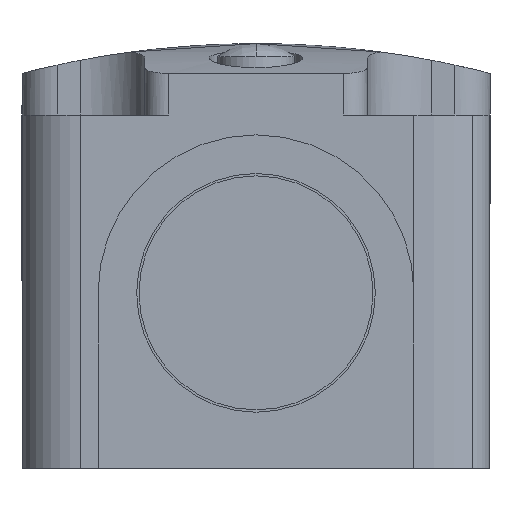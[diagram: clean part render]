
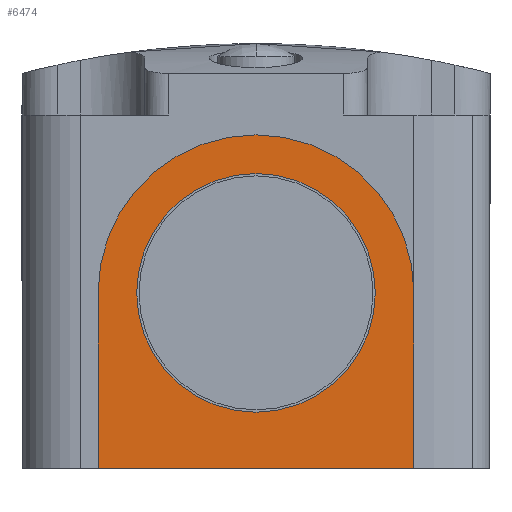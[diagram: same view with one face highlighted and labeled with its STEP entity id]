
A CAD part, front view. The second image highlights one B-rep face of the part: STEP entity #6474.
In plain terms, the highlighted planar face has unit normal (0, -1, 0).
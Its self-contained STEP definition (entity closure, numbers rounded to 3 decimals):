
#30 = VERTEX_POINT ( 'NONE', #11013 ) ;
#336 = VERTEX_POINT ( 'NONE', #6786 ) ;
#664 = VECTOR ( 'NONE', #18358, 1000. ) ;
#763 = DIRECTION ( 'NONE',  ( 0., 1., 0. ) ) ;
#799 = DIRECTION ( 'NONE',  ( 0., -1., 0. ) ) ;
#1005 = AXIS2_PLACEMENT_3D ( 'NONE', #5187, #15158, #6645 ) ;
#1140 = ORIENTED_EDGE ( 'NONE', *, *, #4179, .F. ) ;
#1274 = CIRCLE ( 'NONE', #17469, 13.5 ) ;
#1600 = EDGE_CURVE ( 'NONE', #5424, #5612, #7491, .T. ) ;
#1933 = CARTESIAN_POINT ( 'NONE',  ( -13.5, -36.2, 15. ) ) ;
#2169 = EDGE_CURVE ( 'NONE', #5612, #2374, #16325, .T. ) ;
#2374 = VERTEX_POINT ( 'NONE', #1933 ) ;
#2608 = AXIS2_PLACEMENT_3D ( 'NONE', #13457, #4924, #14928 ) ;
#4042 = EDGE_LOOP ( 'NONE', ( #1140, #9687, #11384, #8587, #11956 ) ) ;
#4179 = EDGE_CURVE ( 'NONE', #10853, #5424, #1274, .T. ) ;
#4603 = CIRCLE ( 'NONE', #16449, 10.2 ) ;
#4861 = PLANE ( 'NONE',  #2608 ) ;
#4924 = DIRECTION ( 'NONE',  ( 0., -1., 0. ) ) ;
#5187 = CARTESIAN_POINT ( 'NONE',  ( 0., -36.2, 0. ) ) ;
#5275 = EDGE_CURVE ( 'NONE', #9746, #30, #4603, .T. ) ;
#5389 = ORIENTED_EDGE ( 'NONE', *, *, #5275, .F. ) ;
#5424 = VERTEX_POINT ( 'NONE', #14175 ) ;
#5502 = LINE ( 'NONE', #6969, #16800 ) ;
#5509 = EDGE_CURVE ( 'NONE', #10853, #336, #10498, .T. ) ;
#5612 = VERTEX_POINT ( 'NONE', #13175 ) ;
#6474 = ADVANCED_FACE ( 'NONE', ( #12889, #9571 ), #4861, .T. ) ;
#6645 = DIRECTION ( 'NONE',  ( 0., 0., -1. ) ) ;
#6786 = CARTESIAN_POINT ( 'NONE',  ( 13.5, -36.2, 15. ) ) ;
#6969 = CARTESIAN_POINT ( 'NONE',  ( -13.5, -36.2, 15. ) ) ;
#6997 = EDGE_CURVE ( 'NONE', #30, #9746, #18305, .T. ) ;
#7217 = CARTESIAN_POINT ( 'NONE',  ( 13.5, -36.2, 0. ) ) ;
#7491 = CIRCLE ( 'NONE', #12832, 13.5 ) ;
#7824 = DIRECTION ( 'NONE',  ( 0., 1., 0. ) ) ;
#8587 = ORIENTED_EDGE ( 'NONE', *, *, #2169, .F. ) ;
#9457 = CARTESIAN_POINT ( 'NONE',  ( 0., -36.2, 0. ) ) ;
#9496 = CARTESIAN_POINT ( 'NONE',  ( 0., -36.2, 0. ) ) ;
#9571 = FACE_OUTER_BOUND ( 'NONE', #4042, .T. ) ;
#9687 = ORIENTED_EDGE ( 'NONE', *, *, #5509, .T. ) ;
#9746 = VERTEX_POINT ( 'NONE', #17379 ) ;
#9962 = DIRECTION ( 'NONE',  ( 0., 0., 1. ) ) ;
#10498 = LINE ( 'NONE', #15661, #13810 ) ;
#10853 = VERTEX_POINT ( 'NONE', #7217 ) ;
#10891 = DIRECTION ( 'NONE',  ( 0., 0., -1. ) ) ;
#10922 = DIRECTION ( 'NONE',  ( 0., 0., -1. ) ) ;
#11013 = CARTESIAN_POINT ( 'NONE',  ( 0., -36.2, 10.2 ) ) ;
#11384 = ORIENTED_EDGE ( 'NONE', *, *, #17213, .F. ) ;
#11956 = ORIENTED_EDGE ( 'NONE', *, *, #1600, .F. ) ;
#12357 = ORIENTED_EDGE ( 'NONE', *, *, #6997, .F. ) ;
#12832 = AXIS2_PLACEMENT_3D ( 'NONE', #9457, #763, #10891 ) ;
#12889 = FACE_BOUND ( 'NONE', #16292, .T. ) ;
#13175 = CARTESIAN_POINT ( 'NONE',  ( -13.5, -36.2, 0. ) ) ;
#13457 = CARTESIAN_POINT ( 'NONE',  ( -13.5, -36.2, -21.3 ) ) ;
#13810 = VECTOR ( 'NONE', #9962, 1000. ) ;
#14175 = CARTESIAN_POINT ( 'NONE',  ( 0., -36.2, -13.5 ) ) ;
#14928 = DIRECTION ( 'NONE',  ( 0., 0., -1. ) ) ;
#15158 = DIRECTION ( 'NONE',  ( 0., -1., 0. ) ) ;
#15573 = CARTESIAN_POINT ( 'NONE',  ( -13.5, -36.2, -21.3 ) ) ;
#15661 = CARTESIAN_POINT ( 'NONE',  ( 13.5, -36.2, -21.3 ) ) ;
#16283 = CARTESIAN_POINT ( 'NONE',  ( 0., -36.2, 0. ) ) ;
#16292 = EDGE_LOOP ( 'NONE', ( #5389, #12357 ) ) ;
#16325 = LINE ( 'NONE', #15573, #664 ) ;
#16449 = AXIS2_PLACEMENT_3D ( 'NONE', #9496, #799, #10922 ) ;
#16800 = VECTOR ( 'NONE', #16844, 1000. ) ;
#16844 = DIRECTION ( 'NONE',  ( 1., 0., 0. ) ) ;
#17213 = EDGE_CURVE ( 'NONE', #2374, #336, #5502, .T. ) ;
#17379 = CARTESIAN_POINT ( 'NONE',  ( 0., -36.2, -10.2 ) ) ;
#17469 = AXIS2_PLACEMENT_3D ( 'NONE', #16283, #7824, #17670 ) ;
#17670 = DIRECTION ( 'NONE',  ( 0., 0., -1. ) ) ;
#18305 = CIRCLE ( 'NONE', #1005, 10.2 ) ;
#18358 = DIRECTION ( 'NONE',  ( 0., 0., 1. ) ) ;
